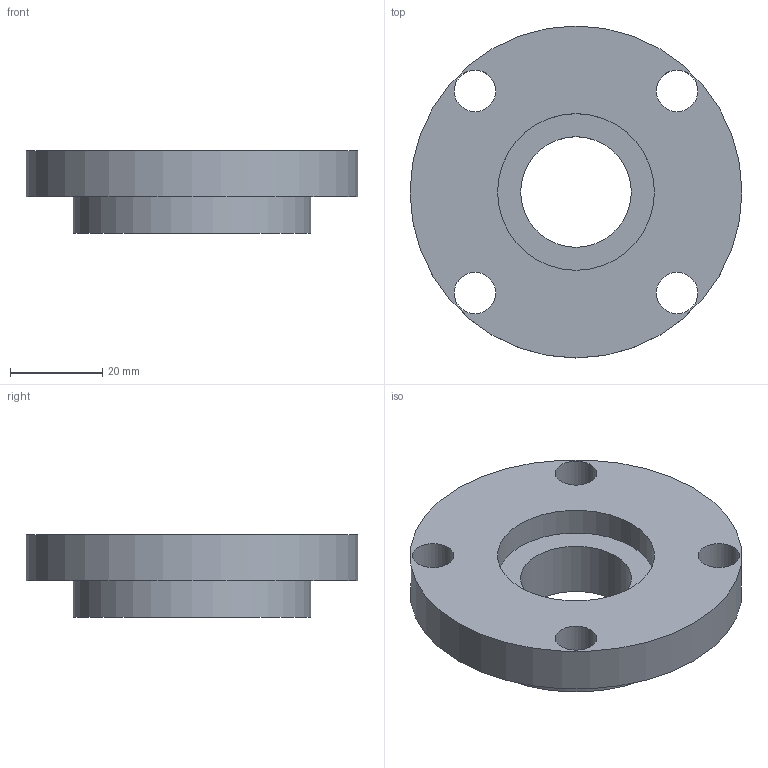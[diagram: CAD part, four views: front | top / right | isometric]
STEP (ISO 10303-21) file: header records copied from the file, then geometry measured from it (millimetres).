
FILE_DESCRIPTION(('Open CASCADE Model'),'2;1');
FILE_NAME('Open CASCADE Shape Model','2026-09-15T22:58:05',('Author'),( 'Open CASCADE'),'Open CASCADE STEP processor 7.9','build123d', 'Unknown');
FILE_SCHEMA(('AUTOMOTIVE_DESIGN { 1 0 10303 214 1 1 1 1 }'));
Length unit declared in the file: millimetre
Products named in the file (1): COMPOUND
Bounding box: 72 x 72 x 18 mm (x, y, z)
Volume: 44023.5 mm3; surface area: 12964.7 mm2
Topology: 1 solids, 1 shells, 12 faces, 24 edges, 16 vertices
Faces by surface type: cylinder 8, plane 4
Full cylindrical faces by diameter (mm): 9 x4, 24 x1, 34 x1, 51.6 x1, 72 x1
Entity records: 666 total; most frequent: DIRECTION 114, CARTESIAN_POINT 101, ORIENTED_EDGE 48, PCURVE 48, DEFINITIONAL_REPRESENTATION 48, LINE 40, VECTOR 40, CIRCLE 32
